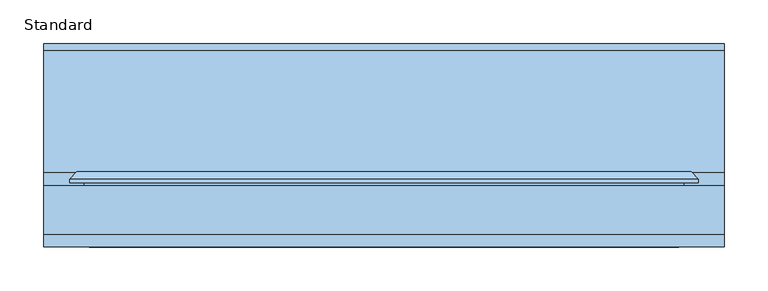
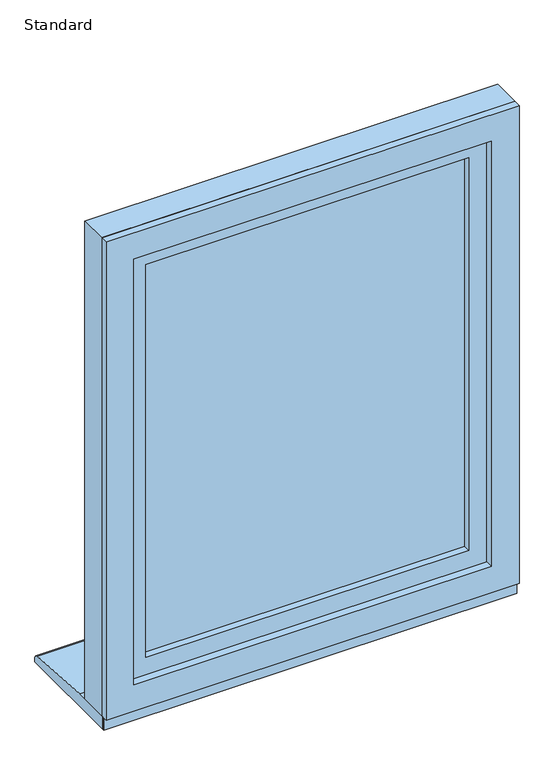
"""IFC4 building model written with IfcOpenShell, lengths in millimetres: window geometry, SMARTS_Alitherm600 : Standard."""

from ifc_helpers import new_model, si_unit, point, frame, frame_2d, origin, place, context, project, spatial, polyline, circle_curve, trimmed, segment, composite_curve, outline, extrude, faceted_brep, source, transform, mapped, element, save


def standard_17f7015e(model_context):
    return source(origin(), model_context, "Body", "SolidModel", [
        extrude(outline(polyline([(1590.0, 390.0), (1590.0, -390.0), (635.0, -390.0), (635.0, 390.0), (1590.0, 390.0)]), holes=[polyline([(670.85, 354.15), (670.85, -354.15), (1554.15, -354.15), (1554.15, 354.15), (670.85, 354.15)])]), frame((0.0, 47.2798427, 0.0), z_axis=(0.0, 1.0, 0.0), x_axis=(0.0, 0.0, 1.0)), (0.0, 0.0, 1.0), 55.5500006),
        extrude(outline(polyline([(1590.0, 390.0), (1590.0, -390.0), (635.0, -390.0), (635.0, 390.0), (1590.0, 390.0)]), holes=[polyline([(687.35, 337.65), (687.35, -337.65), (1537.65, -337.65), (1537.65, 337.65), (687.35, 337.65)])]), frame((0.0, 32.8298432, 0.0), z_axis=(0.0, 1.0, 0.0), x_axis=(0.0, 0.0, 1.0)), (0.0, 0.0, 1.0), 14.4499994),
        extrude(outline(polyline([(1516.6, -316.6), (708.4, -316.6), (708.4, 316.6), (1516.6, 316.6), (1516.6, -316.6)]), holes=[polyline([(1506.6, 306.6), (718.4, 306.6), (718.4, -306.6), (1506.6, -306.6), (1506.6, 306.6)])]), frame((0.0, 72.3211351, 0.0), z_axis=(0.0, 1.0, 0.0), x_axis=(0.0, 0.0, 1.0)), (0.0, 0.0, 1.0), 16.0),
        extrude(outline(polyline([(-316.6, 92.3211351), (316.6, 92.3211351), (316.6, 88.3211351), (-316.6, 88.3211351), (-316.6, 92.3211351)])), frame((0.0, 0.0, 708.4), z_axis=(0.0, 0.0, 1.0), x_axis=(1.0, 0.0, 0.0)), (0.0, 0.0, 1.0), 808.2),
        extrude(outline(polyline([(-316.6, 72.3211351), (316.6, 72.3211351), (316.6, 68.3211351), (-316.6, 68.3211351), (-316.6, 72.3211351)])), frame((0.0, 0.0, 708.4), z_axis=(0.0, 0.0, 1.0), x_axis=(1.0, 0.0, 0.0)), (0.0, 0.0, 1.0), 808.2),
        faceted_brep([(316.9221147, 118.8818325, 1516.9221147), (304.740024, 97.7818325, 1504.740024), (-304.740024, 97.7818325, 1504.740024), (-316.9221147, 118.8818325, 1516.9221147), (321.6060494, 97.7818325, 1521.6060494), (321.6060494, 118.8818325, 1521.6060494), (-321.6060494, 118.8818325, 1521.6060494), (-321.6060494, 97.7818325, 1521.6060494), (-304.740024, 97.7818325, 720.259976), (-316.9221147, 118.8818325, 708.0778853), (-321.6060494, 118.8818325, 703.3939506), (-321.6060494, 97.7818325, 703.3939506), (304.740024, 97.7818325, 720.259976), (316.9221147, 118.8818325, 708.0778853), (321.6060494, 118.8818325, 703.3939506), (321.6060494, 97.7818325, 703.3939506)], [[[0, 1, 2, 3]], [[4, 5, 6, 7]], [[3, 2, 8, 9]], [[7, 6, 10, 11]], [[9, 8, 12, 13]], [[11, 10, 14, 15]], [[13, 12, 1, 0]], [[5, 14, 10, 6], [3, 9, 13, 0]], [[15, 14, 5, 4]], [[7, 11, 15, 4], [1, 12, 8, 2]]]),
        extrude(outline(polyline([(681.552908, -343.447092), (681.552908, 343.447092), (1543.447092, 343.447092), (1543.447092, -343.447092), (681.552908, -343.447092)]), holes=[polyline([(1505.1, -305.1), (1505.1, 305.1), (719.9, 305.1), (719.9, -305.1), (1505.1, -305.1)])]), frame((0.0, 50.2798432, 0.0), z_axis=(0.0, 1.0, 0.0), x_axis=(0.0, 0.0, 1.0)), (0.0, 0.0, 1.0), 13.0853156),
        faceted_brep([(-321.6060494, 118.8818325, 1521.6060494), (-321.6060494, 63.3651588, 1521.6060494), (-321.6060494, 63.3651588, 703.3939506), (-321.6060494, 118.8818325, 703.3939506), (321.6060494, 63.3651588, 703.3939506), (321.6060494, 118.8818325, 703.3939506), (321.6060494, 63.3651588, 1521.6060494), (321.6060494, 118.8818325, 1521.6060494), (-360.3358988, 106.2818325, 1560.3358988), (-360.3358988, 110.3519831, 1560.3358988), (-360.3358988, 110.3519831, 664.6641012), (-360.3358988, 106.2818325, 664.6641012), (360.3358988, 110.3519831, 664.6641012), (360.3358988, 106.2818325, 664.6641012), (360.3358988, 110.3519831, 1560.3358988), (360.3358988, 106.2818325, 1560.3358988), (-343.7467657, 106.2818325, 1543.7467657), (343.7467657, 106.2818325, 1543.7467657), (343.7467657, 106.2818325, 681.2532343), (-343.7467657, 106.2818325, 681.2532343), (-351.8060494, 118.8818325, 1551.8060494), (351.8060494, 118.8818325, 1551.8060494), (351.8060494, 118.8818325, 673.1939506), (-351.8060494, 118.8818325, 673.1939506), (-343.7467657, 63.3651588, 1543.7467657), (-343.7467657, 63.3651588, 681.2532343), (343.7467657, 63.3651588, 681.2532343), (343.7467657, 63.3651588, 1543.7467657)], [[[0, 1, 2, 3]], [[3, 2, 4, 5]], [[5, 4, 6, 7]], [[7, 6, 1, 0]], [[8, 9, 10, 11]], [[11, 10, 12, 13]], [[13, 12, 14, 15]], [[11, 13, 15, 8], [16, 17, 18, 19]], [[15, 14, 9, 8]], [[20, 21, 22, 23], [3, 5, 7, 0]], [[24, 16, 19, 25]], [[25, 19, 18, 26]], [[26, 18, 17, 27]], [[25, 26, 27, 24], [1, 6, 4, 2]], [[27, 17, 16, 24]], [[9, 20, 23, 10]], [[10, 23, 22, 12]], [[12, 22, 21, 14]], [[14, 21, 20, 9]]]),
        extrude(outline(polyline([(390.0, 43.2798432), (390.0, 40.7798432), (-390.0, 40.7798432), (-390.0, 43.2798432), (390.0, 43.2798432)])), frame((0.0, 0.0, 610.0), z_axis=(0.0, 0.0, 1.0), x_axis=(1.0, 0.0, 0.0)), (0.0, 0.0, 1.0), 31.0),
        extrude(outline(composite_curve([segment(polyline([(265.7798432, 610.0), (43.2798432, 610.0), (43.2798432, 635.0), (118.7798432, 635.0), (258.4770891, 625.9276664)]), True, "CONTINUOUS"), segment(trimmed(circle_curve(frame_2d((257.7798432, 617.9581088)), 8.0), [point((258.4770891, 625.9276664))], [point((265.7798432, 617.9581088))], False, "CARTESIAN"), True, "CONTINUOUS"), segment(polyline([(265.7798432, 617.9581088), (265.7798432, 610.0)]), True, "CONTINUOUS")], self_intersect=False)), frame((-390.0, 0.0, 0.0), z_axis=(1.0, 0.0, 0.0), x_axis=(0.0, 1.0, 0.0)), (0.0, 0.0, 1.0), 780.0),
    ])


if __name__ == "__main__":
    model = new_model("IFC4")
    model_context = context("Model", 3, world=origin())
    ifc_project = project(units=[si_unit("LENGTHUNIT", "METRE", prefix="MILLI")], contexts=[model_context])
    site = spatial("IfcSite", under=ifc_project)
    building = spatial("IfcBuilding", under=site)
    placement = place(None, origin())
    standard_shape = standard_17f7015e(model_context)
    element("IfcWindow", 1, ObjectType="SMARTS_Alitherm600 : Standard", at=placement, inside=building, context=model_context, shape_type="MappedRepresentation", body=[
        mapped(standard_shape, transform((0.0, 0.0, 0.0), x_axis=(1.0, 0.0, 0.0), y_axis=(0.0, 1.0, 0.0), z_axis=(0.0, 0.0, 1.0))),
    ])
    save(model, "model.ifc")
